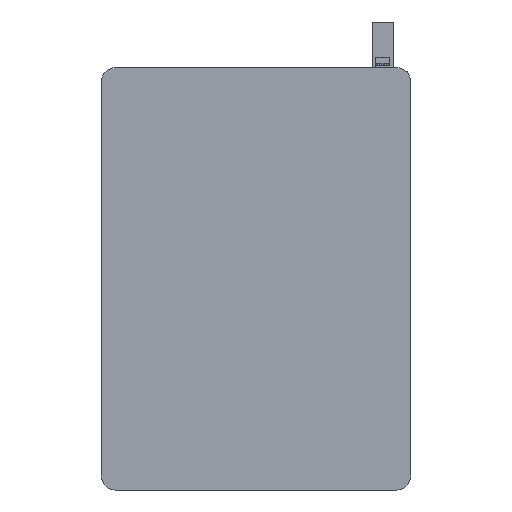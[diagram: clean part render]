
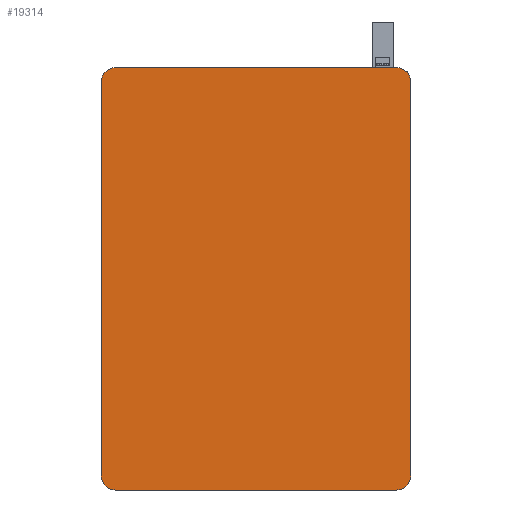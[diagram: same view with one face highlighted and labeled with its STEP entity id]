
A CAD part, front view. The second image highlights one B-rep face of the part: STEP entity #19314.
In plain terms, the highlighted planar face has unit normal (0, -1, 0).
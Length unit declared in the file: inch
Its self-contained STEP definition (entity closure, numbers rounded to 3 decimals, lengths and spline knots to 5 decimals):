
#1767 = VERTEX_POINT ( 'NONE', #21963 ) ;
#2573 = EDGE_CURVE ( 'NONE', #6141, #12453, #3786, .T. ) ;
#3539 = CARTESIAN_POINT ( 'NONE',  ( -11., 0., 15. ) ) ;
#3786 = LINE ( 'NONE', #28544, #38857 ) ;
#4969 = LINE ( 'NONE', #6678, #29423 ) ;
#6141 = VERTEX_POINT ( 'NONE', #28428 ) ;
#6440 = VERTEX_POINT ( 'NONE', #19073 ) ;
#6678 = CARTESIAN_POINT ( 'NONE',  ( 11., 0., -15. ) ) ;
#7125 = DIRECTION ( 'NONE',  ( 0., 0., 1. ) ) ;
#8042 = DIRECTION ( 'NONE',  ( 0., 0., 1. ) ) ;
#8506 = CARTESIAN_POINT ( 'NONE',  ( 0., 0., 0. ) ) ;
#11007 = CIRCLE ( 'NONE', #37302, 1. ) ;
#12049 = EDGE_CURVE ( 'NONE', #6141, #6440, #28190, .T. ) ;
#12453 = VERTEX_POINT ( 'NONE', #14279 ) ;
#12834 = VECTOR ( 'NONE', #31727, 39.37008 ) ;
#13189 = ORIENTED_EDGE ( 'NONE', *, *, #2573, .F. ) ;
#13652 = ORIENTED_EDGE ( 'NONE', *, *, #12049, .T. ) ;
#14255 = DIRECTION ( 'NONE',  ( 0., 0., 1. ) ) ;
#14279 = CARTESIAN_POINT ( 'NONE',  ( -10., 0., -15. ) ) ;
#15232 = CARTESIAN_POINT ( 'NONE',  ( -10., 0., 14. ) ) ;
#16017 = AXIS2_PLACEMENT_3D ( 'NONE', #16097, #48522, #8042 ) ;
#16097 = CARTESIAN_POINT ( 'NONE',  ( -10., 0., -14. ) ) ;
#17855 = ORIENTED_EDGE ( 'NONE', *, *, #49549, .F. ) ;
#18790 = VECTOR ( 'NONE', #26895, 39.37008 ) ;
#19013 = AXIS2_PLACEMENT_3D ( 'NONE', #19795, #35417, #51708 ) ;
#19073 = CARTESIAN_POINT ( 'NONE',  ( 11., 0., -14. ) ) ;
#19314 = ADVANCED_FACE ( 'NONE', ( #34309 ), #32527, .F. ) ;
#19795 = CARTESIAN_POINT ( 'NONE',  ( 10., 0., -14. ) ) ;
#21963 = CARTESIAN_POINT ( 'NONE',  ( -11., 0., 14. ) ) ;
#23483 = CARTESIAN_POINT ( 'NONE',  ( -11., 0., -14. ) ) ;
#23537 = EDGE_CURVE ( 'NONE', #40453, #1767, #38271, .T. ) ;
#23697 = VERTEX_POINT ( 'NONE', #23483 ) ;
#24520 = ORIENTED_EDGE ( 'NONE', *, *, #32037, .F. ) ;
#24547 = DIRECTION ( 'NONE',  ( -1., 0., 0. ) ) ;
#25173 = VERTEX_POINT ( 'NONE', #37799 ) ;
#26895 = DIRECTION ( 'NONE',  ( 0., 0., 1. ) ) ;
#28190 = CIRCLE ( 'NONE', #19013, 1. ) ;
#28428 = CARTESIAN_POINT ( 'NONE',  ( 10., 0., -15. ) ) ;
#28544 = CARTESIAN_POINT ( 'NONE',  ( -11., 0., -15. ) ) ;
#29423 = VECTOR ( 'NONE', #38409, 39.37008 ) ;
#30551 = EDGE_CURVE ( 'NONE', #23697, #12453, #48912, .T. ) ;
#31150 = CARTESIAN_POINT ( 'NONE',  ( 10., 0., 14. ) ) ;
#31178 = DIRECTION ( 'NONE',  ( 0., -1., 0. ) ) ;
#31727 = DIRECTION ( 'NONE',  ( 1., 0., 0. ) ) ;
#32037 = EDGE_CURVE ( 'NONE', #25173, #6440, #4969, .T. ) ;
#32527 = PLANE ( 'NONE',  #44782 ) ;
#34309 = FACE_OUTER_BOUND ( 'NONE', #45787, .T. ) ;
#35013 = DIRECTION ( 'NONE',  ( 0., -1., 0. ) ) ;
#35417 = DIRECTION ( 'NONE',  ( 0., -1., 0. ) ) ;
#36678 = LINE ( 'NONE', #3539, #12834 ) ;
#37302 = AXIS2_PLACEMENT_3D ( 'NONE', #31150, #35013, #7125 ) ;
#37799 = CARTESIAN_POINT ( 'NONE',  ( 11., 0., 14. ) ) ;
#38271 = CIRCLE ( 'NONE', #51567, 1. ) ;
#38409 = DIRECTION ( 'NONE',  ( 0., 0., -1. ) ) ;
#38857 = VECTOR ( 'NONE', #24547, 39.37008 ) ;
#40279 = CARTESIAN_POINT ( 'NONE',  ( 10., 0., 15. ) ) ;
#40453 = VERTEX_POINT ( 'NONE', #49804 ) ;
#43291 = DIRECTION ( 'NONE',  ( 0., 0., 1. ) ) ;
#44782 = AXIS2_PLACEMENT_3D ( 'NONE', #8506, #48635, #14255 ) ;
#44783 = ORIENTED_EDGE ( 'NONE', *, *, #23537, .T. ) ;
#45787 = EDGE_LOOP ( 'NONE', ( #48392, #49720, #13189, #13652, #24520, #47184, #17855, #44783 ) ) ;
#46190 = CARTESIAN_POINT ( 'NONE',  ( -11., 0., -15. ) ) ;
#46311 = EDGE_CURVE ( 'NONE', #23697, #1767, #50773, .T. ) ;
#47070 = VERTEX_POINT ( 'NONE', #40279 ) ;
#47184 = ORIENTED_EDGE ( 'NONE', *, *, #48845, .T. ) ;
#48392 = ORIENTED_EDGE ( 'NONE', *, *, #46311, .F. ) ;
#48522 = DIRECTION ( 'NONE',  ( 0., -1., 0. ) ) ;
#48635 = DIRECTION ( 'NONE',  ( 0., 1., 0. ) ) ;
#48845 = EDGE_CURVE ( 'NONE', #25173, #47070, #11007, .T. ) ;
#48912 = CIRCLE ( 'NONE', #16017, 1. ) ;
#49549 = EDGE_CURVE ( 'NONE', #40453, #47070, #36678, .T. ) ;
#49720 = ORIENTED_EDGE ( 'NONE', *, *, #30551, .T. ) ;
#49804 = CARTESIAN_POINT ( 'NONE',  ( -10., 0., 15. ) ) ;
#50773 = LINE ( 'NONE', #46190, #18790 ) ;
#51567 = AXIS2_PLACEMENT_3D ( 'NONE', #15232, #31178, #43291 ) ;
#51708 = DIRECTION ( 'NONE',  ( 0., 0., 1. ) ) ;
